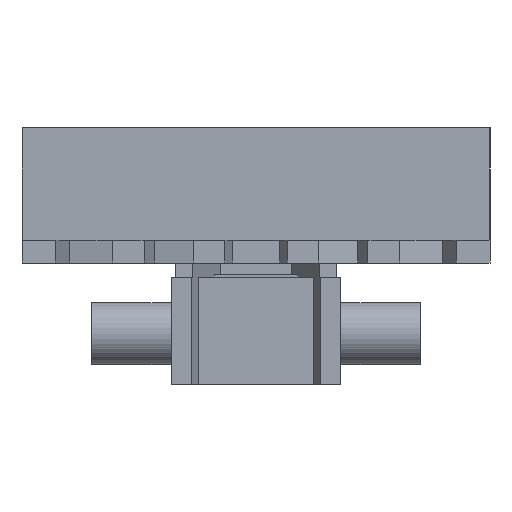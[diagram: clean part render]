
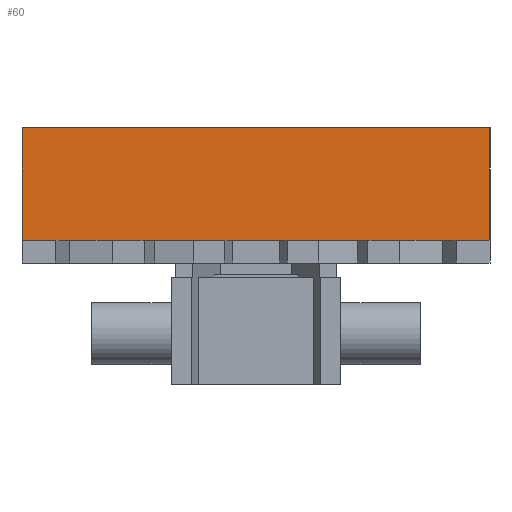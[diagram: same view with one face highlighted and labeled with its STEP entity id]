
A CAD part, left-side view. The second image highlights one B-rep face of the part: STEP entity #60.
In plain terms, the highlighted planar face has unit normal (-1, 0, 0).
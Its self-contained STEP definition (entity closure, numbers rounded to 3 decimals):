
#60 = ADVANCED_FACE ( 'NONE', ( #3475 ), #3466, .T. ) ;
#127 = VERTEX_POINT ( 'NONE', #3787 ) ;
#176 = EDGE_CURVE ( 'NONE', #6325, #6310, #3995, .T. ) ;
#178 = EDGE_CURVE ( 'NONE', #6310, #6309, #3924, .T. ) ;
#201 = ORIENTED_EDGE ( 'NONE', *, *, #178, .T. ) ;
#214 = EDGE_CURVE ( 'NONE', #127, #6325, #4048, .T. ) ;
#215 = ORIENTED_EDGE ( 'NONE', *, *, #214, .T. ) ;
#218 = ORIENTED_EDGE ( 'NONE', *, *, #237, .T. ) ;
#226 = EDGE_LOOP ( 'NONE', ( #215, #6306, #201, #218 ) ) ;
#237 = EDGE_CURVE ( 'NONE', #6309, #127, #4097, .T. ) ;
#2162 = CARTESIAN_POINT ( 'NONE',  ( -3.825, -41.5, 62.5 ) ) ;
#2164 = CARTESIAN_POINT ( 'NONE',  ( -3.825, 41.5, 62.5 ) ) ;
#2687 = CARTESIAN_POINT ( 'NONE',  ( -3.825, -41.5, 42.5 ) ) ;
#3466 = PLANE ( 'NONE',  #3483 ) ;
#3469 = DIRECTION ( 'NONE',  ( -1., 0., 0. ) ) ;
#3475 = FACE_OUTER_BOUND ( 'NONE', #226, .T. ) ;
#3483 = AXIS2_PLACEMENT_3D ( 'NONE', #3489, #3469, #3492 ) ;
#3489 = CARTESIAN_POINT ( 'NONE',  ( -3.825, -41.5, 42.5 ) ) ;
#3492 = DIRECTION ( 'NONE',  ( 0., -1., 0. ) ) ;
#3787 = CARTESIAN_POINT ( 'NONE',  ( -3.825, 41.5, 42.5 ) ) ;
#3901 = VECTOR ( 'NONE', #3916, 1000. ) ;
#3913 = DIRECTION ( 'NONE',  ( 0., -1., 0. ) ) ;
#3916 = DIRECTION ( 'NONE',  ( 0., 1., 0. ) ) ;
#3917 = CARTESIAN_POINT ( 'NONE',  ( -3.825, -41.5, 62.5 ) ) ;
#3924 = LINE ( 'NONE', #3917, #3901 ) ;
#3942 = VECTOR ( 'NONE', #3913, 1000. ) ;
#3995 = LINE ( 'NONE', #4005, #4001 ) ;
#4000 = DIRECTION ( 'NONE',  ( 0., 0., 1. ) ) ;
#4001 = VECTOR ( 'NONE', #4000, 1000. ) ;
#4005 = CARTESIAN_POINT ( 'NONE',  ( -3.825, -41.5, 42.5 ) ) ;
#4047 = CARTESIAN_POINT ( 'NONE',  ( -3.825, -41.5, 42.5 ) ) ;
#4048 = LINE ( 'NONE', #4047, #3942 ) ;
#4071 = DIRECTION ( 'NONE',  ( 0., 0., -1. ) ) ;
#4072 = VECTOR ( 'NONE', #4071, 1000. ) ;
#4096 = CARTESIAN_POINT ( 'NONE',  ( -3.825, 41.5, 42.5 ) ) ;
#4097 = LINE ( 'NONE', #4096, #4072 ) ;
#6306 = ORIENTED_EDGE ( 'NONE', *, *, #176, .T. ) ;
#6309 = VERTEX_POINT ( 'NONE', #2164 ) ;
#6310 = VERTEX_POINT ( 'NONE', #2162 ) ;
#6325 = VERTEX_POINT ( 'NONE', #2687 ) ;
